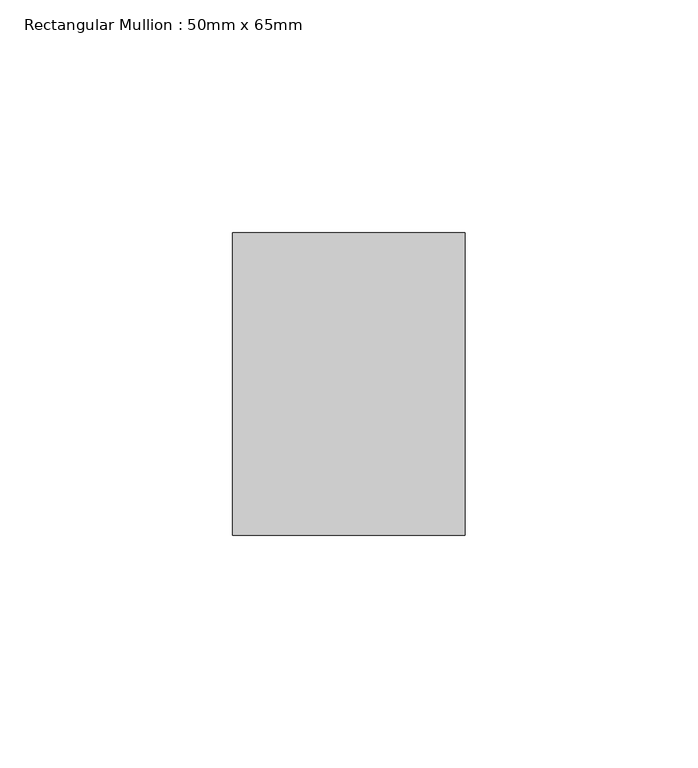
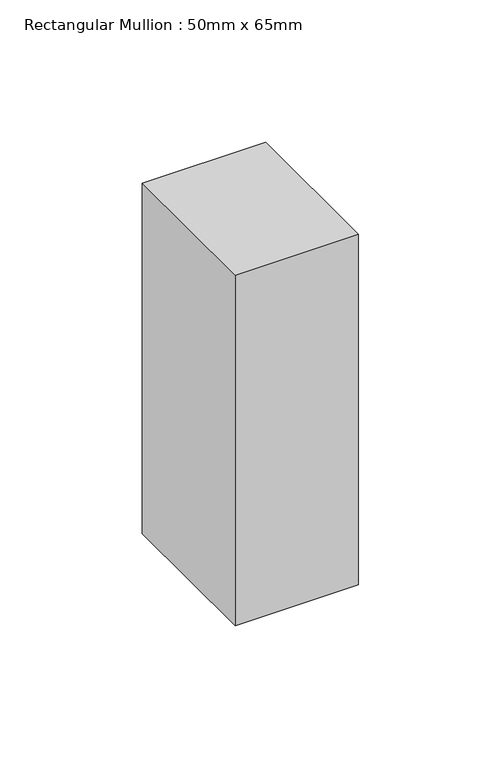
"""IFC4 building model written with IfcOpenShell, lengths in millimetres: member geometry, Rectangular Mullion : 50mm x 65mm."""

from ifc_helpers import new_model, si_unit, frame, origin, place, context, project, spatial, polyline, outline, extrude, source, transform, mapped, element, save


def rectangular_mullion_50mm_x_65mm_203c95b3(model_context):
    return source(origin(), model_context, "Body", "SweptSolid", [
        extrude(outline(polyline([(25.0, 32.5), (25.0, -32.5), (-25.0, -32.5), (-25.0, 32.5), (25.0, 32.5)])), frame((0.0, 0.0, -150.0), z_axis=(0.0, 0.0, 1.0), x_axis=(1.0, 0.0, 0.0)), (0.0, 0.0, 1.0), 150.0),
    ])


if __name__ == "__main__":
    model = new_model("IFC4")
    model_context = context("Model", 3, world=origin())
    ifc_project = project(units=[si_unit("LENGTHUNIT", "METRE", prefix="MILLI")], contexts=[model_context])
    site = spatial("IfcSite", under=ifc_project)
    building = spatial("IfcBuilding", under=site)
    placement = place(None, origin())
    rectangular_mullion_50mm_x_65mm_shape = rectangular_mullion_50mm_x_65mm_203c95b3(model_context)
    element("IfcMember", 1, ObjectType="Rectangular Mullion : 50mm x 65mm", at=placement, inside=building, context=model_context, shape_type="MappedRepresentation", body=[
        mapped(rectangular_mullion_50mm_x_65mm_shape, transform((0.0, 0.0, 0.0), x_axis=(1.0, 0.0, 0.0), y_axis=(0.0, 1.0, 0.0), z_axis=(0.0, 0.0, 1.0))),
    ])
    save(model, "model.ifc")
